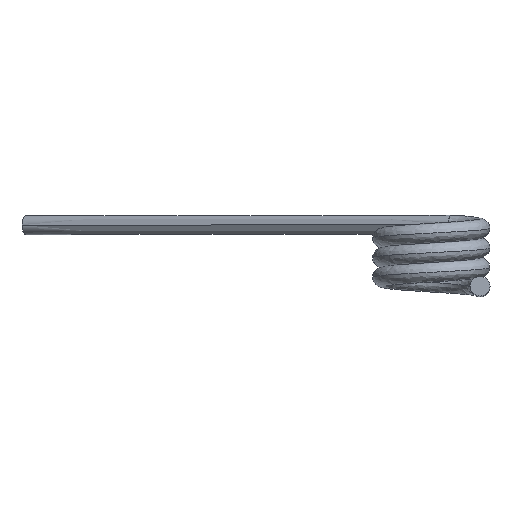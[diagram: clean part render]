
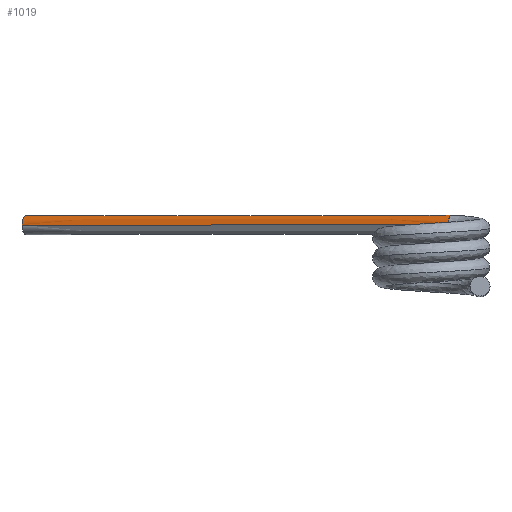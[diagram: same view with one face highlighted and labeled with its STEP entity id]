
A CAD part, top view. The second image highlights one B-rep face of the part: STEP entity #1019.
In plain terms, the highlighted face is a extrusion surface.
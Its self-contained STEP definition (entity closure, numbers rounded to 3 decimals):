
#321=CARTESIAN_POINT('',(0.852,3.18,-1.81));
#322=CARTESIAN_POINT('',(0.852,3.282,-1.81));
#323=CARTESIAN_POINT('',(0.886,3.485,-1.883));
#324=CARTESIAN_POINT('',(0.994,3.685,-2.112));
#325=CARTESIAN_POINT('',(1.135,3.685,-2.412));
#326=CARTESIAN_POINT('',(1.243,3.485,-2.641));
#327=CARTESIAN_POINT('',(1.277,3.282,-2.714));
#328=CARTESIAN_POINT('',(1.277,3.18,-2.714));
#402=DIRECTION('',(-0.905,0.,-0.426));
#403=VECTOR('',#402,24.);
#404=CARTESIAN_POINT('',(0.852,3.18,-1.81));
#405=LINE('',#404,#403);
#406=DIRECTION('',(-0.905,0.,-0.426));
#407=VECTOR('',#406,24.);
#408=CARTESIAN_POINT('',(1.277,3.18,-2.714));
#409=LINE('',#408,#407);
#596=CARTESIAN_POINT('',(-20.864,3.18,-12.028));
#597=CARTESIAN_POINT('',(-20.864,3.282,-12.028));
#598=CARTESIAN_POINT('',(-20.83,3.485,-12.102));
#599=CARTESIAN_POINT('',(-20.722,3.685,-12.331));
#600=CARTESIAN_POINT('',(-20.581,3.685,-12.631));
#601=CARTESIAN_POINT('',(-20.473,3.485,-12.86));
#602=CARTESIAN_POINT('',(-20.439,3.282,-12.933));
#603=CARTESIAN_POINT('',(-20.439,3.18,-12.933));
#622=VERTEX_POINT('',#596);
#623=VERTEX_POINT('',#603);
#624=CARTESIAN_POINT('',(0.852,3.18,-1.81));
#625=VERTEX_POINT('',#624);
#626=CARTESIAN_POINT('',(1.277,3.18,-2.714));
#627=VERTEX_POINT('',#626);
#996=CARTESIAN_POINT('',(0.852,3.15,-1.811));
#997=CARTESIAN_POINT('',(0.852,3.16,-1.81));
#998=CARTESIAN_POINT('',(0.85,3.272,-1.806));
#999=CARTESIAN_POINT('',(0.886,3.485,-1.883));
#1000=CARTESIAN_POINT('',(0.994,3.685,
-2.112));
#1001=CARTESIAN_POINT('',(1.135,3.685,-2.412));
#1002=CARTESIAN_POINT('',(1.243,3.485,-2.641));
#1003=CARTESIAN_POINT('',(1.279,3.272,-2.718));
#1004=CARTESIAN_POINT('',(1.277,3.16,-2.714));
#1005=CARTESIAN_POINT('',(1.277,3.15,-2.713));
#1007=DIRECTION('',(-0.905,0.,-0.426));
#1008=VECTOR('',#1007,1.);
#1009=SURFACE_OF_LINEAR_EXTRUSION('',#1006,#1008);
#1011=ORIENTED_EDGE('',*,*,#1010,.T.);
#1013=ORIENTED_EDGE('',*,*,#1012,.T.);
#1015=ORIENTED_EDGE('',*,*,#1014,.F.);
#1016=ORIENTED_EDGE('',*,*,#983,.F.);
#1017=EDGE_LOOP('',(#1011,#1013,#1015,#1016));
#1018=FACE_OUTER_BOUND('',#1017,.F.);
#1019=ADVANCED_FACE('',(#1018),#1009,.T.);
#329=B_SPLINE_CURVE_WITH_KNOTS('',3,(#321,#322,#323,#324,#325,#326,#327,#328),
.UNSPECIFIED.,.F.,.F.,(4,1,1,1,1,4),(0.,0.2,0.4,
0.6,0.8,1.),.UNSPECIFIED.);
#604=B_SPLINE_CURVE_WITH_KNOTS('',3,(#596,#597,#598,#599,#600,#601,#602,#603),
.UNSPECIFIED.,.F.,.F.,(4,1,1,1,1,4),(0.,0.2,0.4,
0.6,0.8,1.),.UNSPECIFIED.);
#983=EDGE_CURVE('',#625,#627,#329,.T.);
#1006=B_SPLINE_CURVE_WITH_KNOTS('',3,(#996,#997,#998,#999,#1000,#1001,#1002,
#1003,#1004,#1005),.UNSPECIFIED.,.F.,.F.,(4,1,1,1,1,1,1,4),(0.,
0.019,0.212,0.404,0.596,
0.788,0.981,1.),.UNSPECIFIED.);
#1010=EDGE_CURVE('',#625,#622,#405,.T.);
#1012=EDGE_CURVE('',#622,#623,#604,.T.);
#1014=EDGE_CURVE('',#627,#623,#409,.T.);
